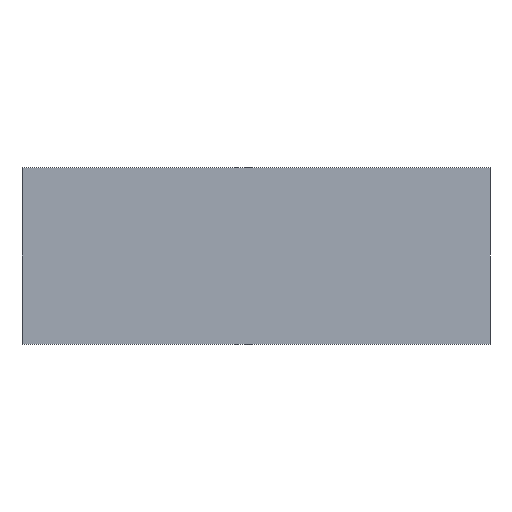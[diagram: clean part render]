
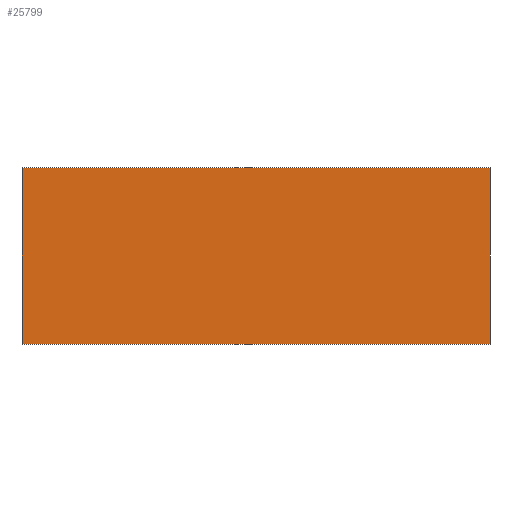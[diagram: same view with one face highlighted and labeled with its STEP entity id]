
A CAD part, left-side view. The second image highlights one B-rep face of the part: STEP entity #25799.
In plain terms, the highlighted planar face has unit normal (-1, 0, 0).
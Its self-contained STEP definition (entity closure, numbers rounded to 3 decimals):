
#3474=FACE_OUTER_BOUND('',#5011,.T.);
#5011=EDGE_LOOP('',(#20673,#20674,#20675,#20676));
#7003=LINE('',#50008,#9262);
#7011=LINE('',#50024,#9270);
#7012=LINE('',#50026,#9271);
#7013=LINE('',#50027,#9272);
#9262=VECTOR('',#32745,80.);
#9270=VECTOR('',#32755,212.);
#9271=VECTOR('',#32756,80.);
#9272=VECTOR('',#32757,212.);
#11563=VERTEX_POINT('',#50006);
#11564=VERTEX_POINT('',#50007);
#11571=VERTEX_POINT('',#50023);
#11572=VERTEX_POINT('',#50025);
#14782=EDGE_CURVE('',#11563,#11564,#7003,.T.);
#14790=EDGE_CURVE('',#11564,#11571,#7011,.T.);
#14791=EDGE_CURVE('',#11572,#11571,#7012,.T.);
#14792=EDGE_CURVE('',#11563,#11572,#7013,.T.);
#20673=ORIENTED_EDGE('',*,*,#14782,.T.);
#20674=ORIENTED_EDGE('',*,*,#14790,.T.);
#20675=ORIENTED_EDGE('',*,*,#14791,.F.);
#20676=ORIENTED_EDGE('',*,*,#14792,.F.);
#24680=PLANE('',#27772);
#25799=ADVANCED_FACE('',(#3474),#24680,.T.);
#27772=AXIS2_PLACEMENT_3D('',#50022,#32753,#32754);
#32745=DIRECTION('',(0.,0.,1.));
#32753=DIRECTION('center_axis',(-1.,0.,0.));
#32754=DIRECTION('ref_axis',(0.,0.,1.));
#32755=DIRECTION('',(0.,1.,0.));
#32756=DIRECTION('',(0.,0.,1.));
#32757=DIRECTION('',(0.,1.,0.));
#50006=CARTESIAN_POINT('',(-40.,-106.,-40.));
#50007=CARTESIAN_POINT('',(-40.,-106.,40.));
#50008=CARTESIAN_POINT('',(-40.,-106.,-40.));
#50022=CARTESIAN_POINT('Origin',(-40.,-106.,-40.));
#50023=CARTESIAN_POINT('',(-40.,106.,40.));
#50024=CARTESIAN_POINT('',(-40.,-106.,40.));
#50025=CARTESIAN_POINT('',(-40.,106.,-40.));
#50026=CARTESIAN_POINT('',(-40.,106.,-40.));
#50027=CARTESIAN_POINT('',(-40.,-106.,-40.));
